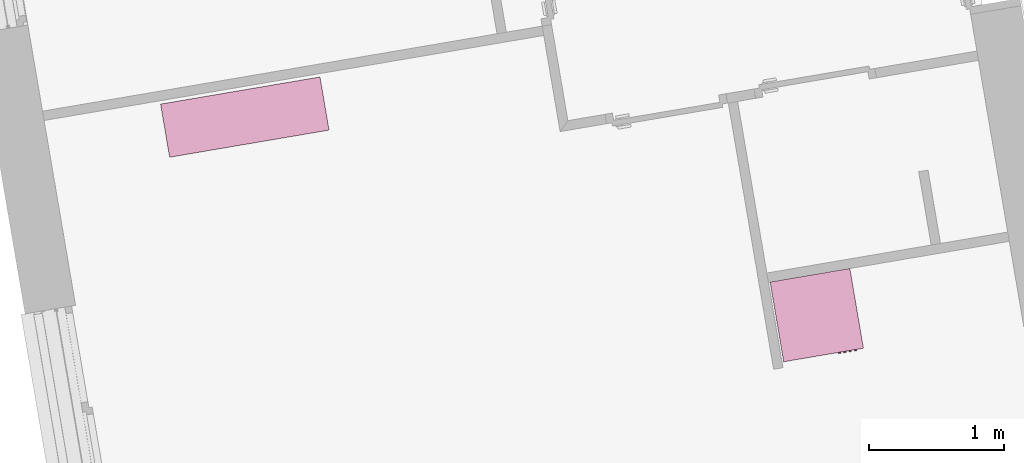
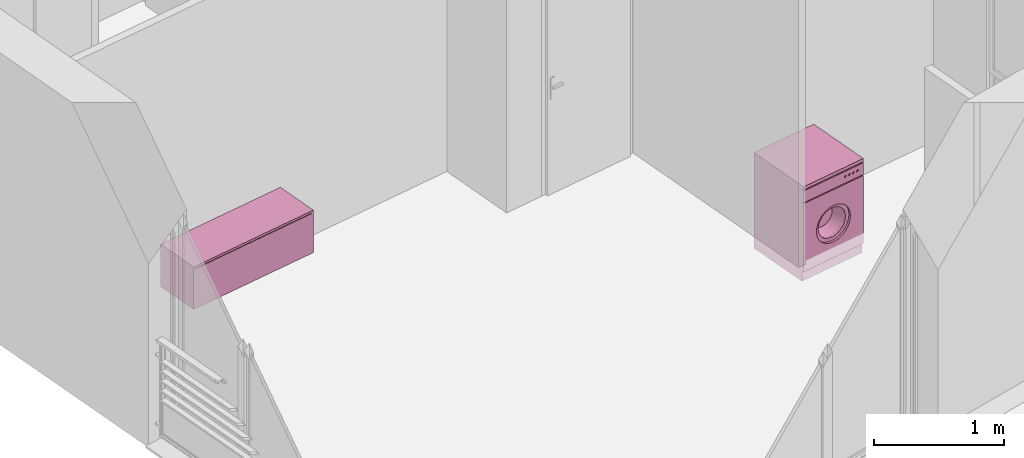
# One storey, part 108 of 121: 2 furnishings.
"""IFC2X3 building model written with IfcOpenShell, lengths in metres."""

from ifc_helpers import new_model, entity, si_unit, converted_unit, derived_unit, money_unit, direction, frame, origin_with_axes, place, context, subcontext, project, spatial, open_shell, faceted_brep, surface_model, source, transform, mapped, type_object, element, save


model = new_model("IFC2X3")

# Units and contexts
model_context = context("Model", 3, precision=1e-05, world=origin_with_axes(), true_north=direction((0.0, 1.0)))
body_context = subcontext(model_context, "Body", "Model", "MODEL_VIEW")
ifc_project = project(units=[si_unit("LENGTHUNIT", "METRE"), si_unit("AREAUNIT", "SQUARE_METRE"), si_unit("VOLUMEUNIT", "CUBIC_METRE"), converted_unit("PLANEANGLEUNIT", "DEGREE", entity("IfcPlaneAngleMeasure", 0.0174532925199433), si_unit("PLANEANGLEUNIT", "RADIAN"), dimensions=[0, 0, 0, 0, 0, 0, 0]), money_unit("CHF"), converted_unit("TIMEUNIT", "Year", entity("IfcTimeMeasure", 31557600.0), si_unit("TIMEUNIT", "SECOND"), dimensions=[0, 0, 1, 0, 0, 0, 0]), si_unit("MASSUNIT", "GRAM", prefix="KILO"), si_unit("THERMODYNAMICTEMPERATUREUNIT", "DEGREE_CELSIUS"), si_unit("LUMINOUSINTENSITYUNIT", "LUMEN"), si_unit("ENERGYUNIT", "JOULE", prefix="MEGA"), derived_unit("THERMALCONDUCTANCEUNIT", [(si_unit("POWERUNIT", "WATT"), 1), (si_unit("LENGTHUNIT", "METRE"), -1), (si_unit("THERMODYNAMICTEMPERATUREUNIT", "KELVIN"), -1)]), derived_unit("SPECIFICHEATCAPACITYUNIT", [(si_unit("ENERGYUNIT", "JOULE"), 1), (si_unit("MASSUNIT", "GRAM", prefix="KILO"), -1), (si_unit("THERMODYNAMICTEMPERATUREUNIT", "KELVIN"), -1)]), derived_unit("MASSDENSITYUNIT", [(si_unit("MASSUNIT", "GRAM", prefix="KILO"), 1), (si_unit("VOLUMEUNIT", "CUBIC_METRE"), -1)])], contexts=[model_context])

# Site, building, storey
site_placement = place(None, origin_with_axes())
site = spatial("IfcSite", under=ifc_project, at=site_placement, Name="Site", CompositionType="ELEMENT")
building_placement = place(site_placement, origin_with_axes())
building = spatial("IfcBuilding", under=site, at=building_placement, Name="Bâtiment", CompositionType="ELEMENT")
storey_placement = place(building_placement, frame((0.0, 0.0, 2.75), z_axis=(0.0, 0.0, 1.0), x_axis=(1.0, 0.0, 0.0)))
storey = spatial("IfcBuildingStorey", under=building, at=storey_placement, Name="Etage 1", CompositionType="ELEMENT", Elevation=2.75)

# Furnishings
furnishing_element_type_1 = type_object("IfcFurnishingElementType", Name="Meuble à plans 27")
shared_shape_1 = source(origin_with_axes(), body_context, "Body", "SurfaceModel", [
    surface_model("IfcShellBasedSurfaceModel", [(-1.18, 0.02, 0.0), (-1.18, 0.4, 0.0), (-0.02, 0.4, 0.0), (-0.02, 0.02, 0.0)], [open_shell([[[0, 1, 2, 3]]])]),
    faceted_brep([(0.0, 0.4, 0.0), (0.0, 0.0, 0.0), (-1.2, 0.0, 0.0), (-1.2, 0.4, 0.0), (0.0, 0.4, 0.4), (0.0, 0.0, 0.4), (-1.2, 0.0, 0.4), (-0.02, 0.0, 0.02), (-1.18, 0.0, 0.02), (-1.18, 0.0, 0.38), (-0.02, 0.0, 0.38), (-1.2, 0.4, 0.4), (-0.02, 0.4, 0.01999999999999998), (-0.02, 0.4, 0.38), (-1.18, 0.4, 0.38), (-1.18, 0.4, 0.01999999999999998)], [[[0, 1, 2, 3]], [[4, 5, 1, 0]], [[1, 5, 6, 2], [7, 8, 9, 10]], [[3, 2, 6, 11]], [[0, 3, 11, 4], [12, 13, 14, 15]], [[11, 6, 5, 4]], [[15, 8, 7, 12]], [[14, 9, 8, 15]], [[13, 10, 9, 14]], [[12, 7, 10, 13]]]),
    faceted_brep([(-1.18, 0.4, 0.01999999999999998), (-1.18, 0.4, 0.38), (-0.02, 0.4, 0.38), (-0.02, 0.4, 0.01999999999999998), (-1.18, 0.38, 0.01999999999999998), (-1.18, 0.3800000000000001, 0.38), (-0.02, 0.3800000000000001, 0.38), (-0.02, 0.38, 0.01999999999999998)], [[[0, 1, 2, 3]], [[0, 4, 5, 1]], [[1, 5, 6, 2]], [[2, 6, 7, 3]], [[3, 7, 4, 0]], [[7, 6, 5, 4]]]),
    faceted_brep([(-1.18, 0.0, 0.02), (-1.18, 0.38, 0.02), (-0.02, 0.38, 0.02), (-0.02, 0.0, 0.02), (-1.18, 0.0, 0.3750000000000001), (-1.18, 0.38, 0.3750000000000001), (-0.02, 0.38, 0.3750000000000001), (-0.02, 0.0, 0.3750000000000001)], [[[0, 1, 2, 3]], [[0, 4, 5, 1]], [[1, 5, 6, 2]], [[2, 6, 7, 3]], [[3, 7, 4, 0]], [[7, 6, 5, 4]]]),
])
furnishing_1_placement = place(storey_placement, frame((9583.496544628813, -1029.957044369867, 57.92018680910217), z_axis=(0.0, 0.0, 1.0), x_axis=(0.9858290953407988, 0.1677527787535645, 0.0)))
element("IfcFurnishingElement", 1, at=furnishing_1_placement, inside=storey, type_object=furnishing_element_type_1, Name="Obj.-376", context=body_context, shape_type="MappedRepresentation", body=[
    mapped(shared_shape_1, transform((0.0, 0.0, 0.0))),
])
furnishing_element_type_2 = type_object("IfcFurnishingElementType", Name="Machine à laver")
shared_shape_2 = source(origin_with_axes(), body_context, "Body", "SurfaceModel", [
    faceted_brep([(0.0, 0.02, 0.1), (0.0, 0.0, 0.1), (-0.6, 0.0, 0.1), (-0.6, 0.02, 0.1), (0.0, 0.02000000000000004, 0.74), (0.0, 0.0, 0.74), (-0.6, 0.0, 0.74), (-0.4714285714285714, 0.0, 0.42), (-0.4655872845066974, 0.0, 0.4643689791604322), (-0.448461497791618, 0.0, 0.5057142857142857), (-0.4212183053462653, 0.0, 0.5412183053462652), (-0.3857142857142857, 0.0, 0.568461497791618), (-0.3443689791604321, 0.0, 0.5855872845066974), (-0.3, 0.0, 0.5914285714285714), (-0.2556310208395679, 0.0, 0.5855872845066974), (-0.2142857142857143, 0.0, 0.5684614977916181), (-0.1787816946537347, 0.0, 0.5412183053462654), (-0.1515385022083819, 0.0, 0.5057142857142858), (-0.1344127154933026, 0.0, 0.4643689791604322), (-0.1285714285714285, 0.0, 0.42), (-0.1344127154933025, 0.0, 0.3756310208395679), (-0.1515385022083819, 0.0, 0.3342857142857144), (-0.1787816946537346, 0.0, 0.2987816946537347), (-0.2142857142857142, 0.0, 0.2715385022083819), (-0.2556310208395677, 0.0, 0.2544127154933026), (-0.2999999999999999, 0.0, 0.2485714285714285), (-0.344368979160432, 0.0, 0.2544127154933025), (-0.3857142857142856, 0.0, 0.2715385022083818), (-0.4212183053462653, 0.0, 0.2987816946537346), (-0.448461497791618, 0.0, 0.3342857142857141), (-0.4655872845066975, 0.0, 0.3756310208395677), (-0.6, 0.02000000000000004, 0.74), (-0.4714285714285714, 0.02000000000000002, 0.42), (-0.4655872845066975, 0.02000000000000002, 0.3756310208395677), (-0.448461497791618, 0.02000000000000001, 0.3342857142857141), (-0.4212183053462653, 0.02000000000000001, 0.2987816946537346), (-0.3857142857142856, 0.02000000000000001, 0.2715385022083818), (-0.344368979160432, 0.02000000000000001, 0.2544127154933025), (-0.2999999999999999, 0.02000000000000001, 0.2485714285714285), (-0.2556310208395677, 0.02000000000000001, 0.2544127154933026), (-0.2142857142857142, 0.02000000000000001, 0.2715385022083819), (-0.1787816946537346, 0.02000000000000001, 0.2987816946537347), (-0.1515385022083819, 0.02000000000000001, 0.3342857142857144), (-0.1344127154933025, 0.02000000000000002, 0.3756310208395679), (-0.1285714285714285, 0.02000000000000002, 0.42), (-0.1344127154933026, 0.02000000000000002, 0.4643689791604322), (-0.1515385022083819, 0.02000000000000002, 0.5057142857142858), (-0.1787816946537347, 0.02000000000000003, 0.5412183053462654), (-0.2142857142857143, 0.02000000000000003, 0.5684614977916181), (-0.2556310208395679, 0.02000000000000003, 0.5855872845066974), (-0.3, 0.02000000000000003, 0.5914285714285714), (-0.3443689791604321, 0.02000000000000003, 0.5855872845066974), (-0.3857142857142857, 0.02000000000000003, 0.568461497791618), (-0.4212183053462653, 0.02000000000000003, 0.5412183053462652), (-0.448461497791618, 0.02000000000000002, 0.5057142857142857), (-0.4655872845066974, 0.02000000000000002, 0.4643689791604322)], [[[0, 1, 2, 3]], [[4, 5, 1, 0]], [[1, 5, 6, 2], [7, 8, 9, 10, 11, 12, 13, 14, 15, 16, 17, 18, 19, 20, 21, 22, 23, 24, 25, 26, 27, 28, 29, 30]], [[3, 2, 6, 31]], [[0, 3, 31, 4], [32, 33, 34, 35, 36, 37, 38, 39, 40, 41, 42, 43, 44, 45, 46, 47, 48, 49, 50, 51, 52, 53, 54, 55]], [[31, 6, 5, 4]], [[55, 8, 7, 32]], [[54, 9, 8, 55]], [[53, 10, 9, 54]], [[52, 11, 10, 53]], [[51, 12, 11, 52]], [[50, 13, 12, 51]], [[49, 14, 13, 50]], [[48, 15, 14, 49]], [[47, 16, 15, 48]], [[46, 17, 16, 47]], [[45, 18, 17, 46]], [[44, 19, 18, 45]], [[43, 20, 19, 44]], [[42, 21, 20, 43]], [[41, 22, 21, 42]], [[40, 23, 22, 41]], [[39, 24, 23, 40]], [[38, 25, 24, 39]], [[37, 26, 25, 38]], [[36, 27, 26, 37]], [[35, 28, 27, 36]], [[34, 29, 28, 35]], [[33, 30, 29, 34]], [[32, 7, 30, 33]]]),
    faceted_brep([(-0.4714285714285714, 0.04000000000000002, 0.42), (-0.4714285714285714, 0.02000000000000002, 0.42), (-0.4655872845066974, 0.02000000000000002, 0.4643689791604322), (-0.4655872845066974, 0.04000000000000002, 0.4643689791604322), (-0.4655872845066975, 0.04000000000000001, 0.3756310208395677), (-0.4655872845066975, 0.02000000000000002, 0.3756310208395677), (-0.448461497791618, 0.02000000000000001, 0.3342857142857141), (-0.4212183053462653, 0.02000000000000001, 0.2987816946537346), (-0.3857142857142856, 0.02000000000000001, 0.2715385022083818), (-0.344368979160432, 0.02000000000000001, 0.2544127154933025), (-0.2999999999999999, 0.02000000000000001, 0.2485714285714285), (-0.2556310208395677, 0.02000000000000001, 0.2544127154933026), (-0.2142857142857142, 0.02000000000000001, 0.2715385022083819), (-0.1787816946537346, 0.02000000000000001, 0.2987816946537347), (-0.1515385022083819, 0.02000000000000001, 0.3342857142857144), (-0.1344127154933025, 0.02000000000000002, 0.3756310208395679), (-0.1285714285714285, 0.02000000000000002, 0.42), (-0.1344127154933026, 0.02000000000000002, 0.4643689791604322), (-0.1515385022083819, 0.02000000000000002, 0.5057142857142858), (-0.1787816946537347, 0.02000000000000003, 0.5412183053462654), (-0.2142857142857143, 0.02000000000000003, 0.5684614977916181), (-0.2556310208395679, 0.02000000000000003, 0.5855872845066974), (-0.3, 0.02000000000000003, 0.5914285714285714), (-0.3443689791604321, 0.02000000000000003, 0.5855872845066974), (-0.3857142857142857, 0.02000000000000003, 0.568461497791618), (-0.4212183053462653, 0.02000000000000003, 0.5412183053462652), (-0.448461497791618, 0.02000000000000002, 0.5057142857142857), (-0.4371428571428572, 0.02000000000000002, 0.42), (-0.432469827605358, 0.02000000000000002, 0.4554951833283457), (-0.4187691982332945, 0.02000000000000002, 0.4885714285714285), (-0.3969746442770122, 0.02000000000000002, 0.5169746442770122), (-0.3685714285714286, 0.02000000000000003, 0.5387691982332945), (-0.3354951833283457, 0.02000000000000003, 0.552469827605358), (-0.3, 0.02000000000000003, 0.5571428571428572), (-0.2645048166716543, 0.02000000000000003, 0.552469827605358), (-0.2314285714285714, 0.02000000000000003, 0.5387691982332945), (-0.2030253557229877, 0.02000000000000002, 0.5169746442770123), (-0.1812308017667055, 0.02000000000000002, 0.4885714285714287), (-0.167530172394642, 0.02000000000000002, 0.4554951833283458), (-0.1628571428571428, 0.02000000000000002, 0.42), (-0.167530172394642, 0.02000000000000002, 0.3845048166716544), (-0.1812308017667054, 0.02000000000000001, 0.3514285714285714), (-0.2030253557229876, 0.02000000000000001, 0.3230253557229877), (-0.2314285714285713, 0.02000000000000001, 0.3012308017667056), (-0.2645048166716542, 0.02000000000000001, 0.287530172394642), (-0.2999999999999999, 0.02000000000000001, 0.2828571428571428), (-0.3354951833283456, 0.02000000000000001, 0.287530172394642), (-0.3685714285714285, 0.02000000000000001, 0.3012308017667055), (-0.3969746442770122, 0.02000000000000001, 0.3230253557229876), (-0.4187691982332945, 0.02000000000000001, 0.3514285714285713), (-0.432469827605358, 0.02000000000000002, 0.3845048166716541), (-0.448461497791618, 0.04000000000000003, 0.5057142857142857), (-0.4212183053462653, 0.04000000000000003, 0.5412183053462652), (-0.3857142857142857, 0.04000000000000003, 0.568461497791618), (-0.3443689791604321, 0.04000000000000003, 0.5855872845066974), (-0.3, 0.04000000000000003, 0.5914285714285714), (-0.2556310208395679, 0.04000000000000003, 0.5855872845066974), (-0.2142857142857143, 0.04000000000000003, 0.5684614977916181), (-0.1787816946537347, 0.04000000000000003, 0.5412183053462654), (-0.1515385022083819, 0.04000000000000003, 0.5057142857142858), (-0.1344127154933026, 0.04000000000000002, 0.4643689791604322), (-0.1285714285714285, 0.04000000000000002, 0.42), (-0.1344127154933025, 0.04000000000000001, 0.3756310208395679), (-0.1515385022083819, 0.04000000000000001, 0.3342857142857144), (-0.1787816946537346, 0.04000000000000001, 0.2987816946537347), (-0.2142857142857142, 0.04000000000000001, 0.2715385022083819), (-0.2556310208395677, 0.04000000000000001, 0.2544127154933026), (-0.2999999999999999, 0.04000000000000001, 0.2485714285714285), (-0.344368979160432, 0.04000000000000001, 0.2544127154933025), (-0.3857142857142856, 0.04000000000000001, 0.2715385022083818), (-0.4212183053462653, 0.04000000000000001, 0.2987816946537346), (-0.448461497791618, 0.04000000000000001, 0.3342857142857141), (-0.4371428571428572, 0.04000000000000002, 0.42), (-0.432469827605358, 0.04000000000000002, 0.3845048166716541), (-0.4187691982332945, 0.04000000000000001, 0.3514285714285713), (-0.3969746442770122, 0.04000000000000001, 0.3230253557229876), (-0.3685714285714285, 0.04000000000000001, 0.3012308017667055), (-0.3354951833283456, 0.04000000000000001, 0.287530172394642), (-0.2999999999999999, 0.04000000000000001, 0.2828571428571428), (-0.2645048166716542, 0.04000000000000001, 0.287530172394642), (-0.2314285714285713, 0.04000000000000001, 0.3012308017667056), (-0.2030253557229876, 0.04000000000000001, 0.3230253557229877), (-0.1812308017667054, 0.04000000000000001, 0.3514285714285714), (-0.167530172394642, 0.04000000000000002, 0.3845048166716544), (-0.1628571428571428, 0.04000000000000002, 0.42), (-0.167530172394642, 0.04000000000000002, 0.4554951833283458), (-0.1812308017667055, 0.04000000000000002, 0.4885714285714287), (-0.2030253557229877, 0.04000000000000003, 0.5169746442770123), (-0.2314285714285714, 0.04000000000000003, 0.5387691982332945), (-0.2645048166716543, 0.04000000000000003, 0.552469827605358), (-0.3, 0.04000000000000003, 0.5571428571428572), (-0.3354951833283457, 0.04000000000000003, 0.552469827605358), (-0.3685714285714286, 0.04000000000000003, 0.5387691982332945), (-0.3969746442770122, 0.04000000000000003, 0.5169746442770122), (-0.4187691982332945, 0.04000000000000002, 0.4885714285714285), (-0.432469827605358, 0.04000000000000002, 0.4554951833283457)], [[[0, 1, 2, 3]], [[4, 5, 1, 0]], [[1, 5, 6, 7, 8, 9, 10, 11, 12, 13, 14, 15, 16, 17, 18, 19, 20, 21, 22, 23, 24, 25, 26, 2], [27, 28, 29, 30, 31, 32, 33, 34, 35, 36, 37, 38, 39, 40, 41, 42, 43, 44, 45, 46, 47, 48, 49, 50]], [[3, 2, 26, 51]], [[0, 3, 51, 52, 53, 54, 55, 56, 57, 58, 59, 60, 61, 62, 63, 64, 65, 66, 67, 68, 69, 70, 71, 4], [72, 73, 74, 75, 76, 77, 78, 79, 80, 81, 82, 83, 84, 85, 86, 87, 88, 89, 90, 91, 92, 93, 94, 95]], [[71, 6, 5, 4]], [[70, 7, 6, 71]], [[69, 8, 7, 70]], [[68, 9, 8, 69]], [[67, 10, 9, 68]], [[66, 11, 10, 67]], [[65, 12, 11, 66]], [[64, 13, 12, 65]], [[63, 14, 13, 64]], [[62, 15, 14, 63]], [[61, 16, 15, 62]], [[60, 17, 16, 61]], [[59, 18, 17, 60]], [[58, 19, 18, 59]], [[57, 20, 19, 58]], [[56, 21, 20, 57]], [[55, 22, 21, 56]], [[54, 23, 22, 55]], [[53, 24, 23, 54]], [[52, 25, 24, 53]], [[51, 26, 25, 52]], [[95, 28, 27, 72]], [[94, 29, 28, 95]], [[93, 30, 29, 94]], [[92, 31, 30, 93]], [[91, 32, 31, 92]], [[90, 33, 32, 91]], [[89, 34, 33, 90]], [[88, 35, 34, 89]], [[87, 36, 35, 88]], [[86, 37, 36, 87]], [[85, 38, 37, 86]], [[84, 39, 38, 85]], [[83, 40, 39, 84]], [[82, 41, 40, 83]], [[81, 42, 41, 82]], [[80, 43, 42, 81]], [[79, 44, 43, 80]], [[78, 45, 44, 79]], [[77, 46, 45, 78]], [[76, 47, 46, 77]], [[75, 48, 47, 76]], [[74, 49, 48, 75]], [[73, 50, 49, 74]], [[72, 27, 50, 73]]]),
    surface_model("IfcShellBasedSurfaceModel", [(-0.2645048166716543, 0.03999999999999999, 0.552469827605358), (-0.2733786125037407, 0.14, 0.5193523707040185), (-0.3, 0.14, 0.5228571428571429), (-0.3, 0.03999999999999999, 0.5571428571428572), (-0.2314285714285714, 0.03999999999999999, 0.5387691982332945), (-0.2485714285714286, 0.14, 0.5090768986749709), (-0.2272690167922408, 0.14, 0.4927309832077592), (-0.2109231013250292, 0.14, 0.4714285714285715), (-0.2006476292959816, 0.14, 0.4466213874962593), (-0.1971428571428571, 0.14, 0.4200000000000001), (-0.2006476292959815, 0.14, 0.3933786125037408), (-0.2109231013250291, 0.14, 0.3685714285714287), (-0.2272690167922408, 0.14, 0.3472690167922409), (-0.2485714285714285, 0.14, 0.3309231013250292), (-0.2733786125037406, 0.14, 0.3206476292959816), (-0.2999999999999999, 0.14, 0.3171428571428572), (-0.3266213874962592, 0.14, 0.3206476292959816), (-0.3514285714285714, 0.14, 0.3309231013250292), (-0.3727309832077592, 0.14, 0.3472690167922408), (-0.3890768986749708, 0.14, 0.3685714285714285), (-0.3993523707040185, 0.14, 0.3933786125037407), (-0.4028571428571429, 0.14, 0.42), (-0.3993523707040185, 0.14, 0.4466213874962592), (-0.3890768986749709, 0.14, 0.4714285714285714), (-0.3727309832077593, 0.14, 0.4927309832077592), (-0.3514285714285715, 0.14, 0.5090768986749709), (-0.3266213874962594, 0.14, 0.5193523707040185), (-0.3354951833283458, 0.03999999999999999, 0.552469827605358), (-0.2030253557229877, 0.03999999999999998, 0.5169746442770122), (-0.1812308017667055, 0.03999999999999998, 0.4885714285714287), (-0.167530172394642, 0.03999999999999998, 0.4554951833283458), (-0.1628571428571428, 0.03999999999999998, 0.4200000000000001), (-0.167530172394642, 0.03999999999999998, 0.3845048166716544), (-0.1812308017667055, 0.03999999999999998, 0.3514285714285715), (-0.2030253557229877, 0.03999999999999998, 0.3230253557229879), (-0.2314285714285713, 0.03999999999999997, 0.3012308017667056), (-0.2645048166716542, 0.03999999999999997, 0.2875301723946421), (-0.2999999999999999, 0.03999999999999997, 0.2828571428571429), (-0.3354951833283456, 0.03999999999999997, 0.2875301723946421), (-0.3685714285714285, 0.03999999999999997, 0.3012308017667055), (-0.3969746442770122, 0.03999999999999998, 0.3230253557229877), (-0.4187691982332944, 0.03999999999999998, 0.3514285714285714), (-0.432469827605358, 0.03999999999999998, 0.3845048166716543), (-0.4371428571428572, 0.03999999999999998, 0.4199999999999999), (-0.432469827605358, 0.03999999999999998, 0.4554951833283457), (-0.4187691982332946, 0.03999999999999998, 0.4885714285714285), (-0.3969746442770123, 0.03999999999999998, 0.5169746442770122), (-0.3685714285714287, 0.03999999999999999, 0.5387691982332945)], [open_shell([[[0, 1, 2, 3]], [[4, 5, 1, 0]], [[2, 1, 5, 6, 7, 8, 9, 10, 11, 12, 13, 14, 15, 16, 17, 18, 19, 20, 21, 22, 23, 24, 25, 26]], [[3, 2, 26, 27]], [[28, 6, 5, 4]], [[29, 7, 6, 28]], [[30, 8, 7, 29]], [[31, 9, 8, 30]], [[32, 10, 9, 31]], [[33, 11, 10, 32]], [[34, 12, 11, 33]], [[35, 13, 12, 34]], [[36, 14, 13, 35]], [[37, 15, 14, 36]], [[38, 16, 15, 37]], [[39, 17, 16, 38]], [[40, 18, 17, 39]], [[41, 19, 18, 40]], [[42, 20, 19, 41]], [[43, 21, 20, 42]], [[44, 22, 21, 43]], [[45, 23, 22, 44]], [[46, 24, 23, 45]], [[47, 25, 24, 46]], [[27, 26, 25, 47]]])]),
    surface_model("IfcShellBasedSurfaceModel", [(0.0, 0.02, 0.1), (0.0, 0.6, 0.09999999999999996), (0.0, 0.6, 0.87), (0.0, 0.02000000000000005, 0.87)], [open_shell([[[0, 1, 2, 3]]])]),
    surface_model("IfcShellBasedSurfaceModel", [(-0.6, 0.01999999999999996, 0.1), (-0.6, 0.5999999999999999, 0.09999999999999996), (-0.6, 0.5999999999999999, 0.87), (-0.6, 0.02000000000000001, 0.87)], [open_shell([[[0, 1, 2, 3]]])]),
    surface_model("IfcShellBasedSurfaceModel", [(0.0, 0.6, 0.1), (-0.6, 0.6, 0.1), (-0.6, 0.6, 0.87), (0.0, 0.6, 0.87)], [open_shell([[[0, 1, 2, 3]]])]),
    faceted_brep([(0.0, 0.02, 0.0), (0.0, 0.02, 0.1), (-0.6, 0.02, 0.1), (-0.6, 0.02, 0.0), (0.0, 0.6, 0.0), (0.0, 0.6, 0.1), (-0.6, 0.6, 0.1), (-0.6, 0.6, 0.0)], [[[0, 1, 2, 3]], [[4, 5, 1, 0]], [[1, 5, 6, 2]], [[3, 2, 6, 7]], [[0, 3, 7, 4]], [[7, 6, 5, 4]]]),
    faceted_brep([(0.0, 0.02, 0.75), (0.0, 0.0, 0.75), (-0.6, 0.0, 0.75), (-0.6, 0.02, 0.75), (0.0, 0.02000000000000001, 0.86), (0.0, 0.0, 0.86), (-0.6, 0.0, 0.86), (-0.6, 0.02000000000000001, 0.86)], [[[0, 1, 2, 3]], [[4, 5, 1, 0]], [[1, 5, 6, 2]], [[3, 2, 6, 7]], [[0, 3, 7, 4]], [[7, 6, 5, 4]]]),
    surface_model("IfcShellBasedSurfaceModel", [(0.0, 0.02, 0.74), (-0.6, 0.02, 0.74), (-0.6, 0.02000000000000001, 0.87), (0.0, 0.02000000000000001, 0.87)], [open_shell([[[0, 1, 2, 3]]])]),
    faceted_brep([(0.0, 0.0, 0.87), (0.0, 0.0, 0.9), (-0.6, 0.0, 0.9), (-0.6, 0.0, 0.87), (0.0, 0.6, 0.87), (0.0, 0.6, 0.9), (-0.6, 0.6, 0.9), (-0.6, 0.6, 0.87)], [[[0, 1, 2, 3]], [[4, 5, 1, 0]], [[1, 5, 6, 2]], [[3, 2, 6, 7]], [[0, 3, 7, 4]], [[7, 6, 5, 4]]]),
    faceted_brep([(-0.06866025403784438, 0.0, 0.8049999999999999), (-0.06999999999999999, 0.0, 0.8099999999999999), (-0.06866025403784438, 0.0, 0.815), (-0.065, 0.0, 0.8186602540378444), (-0.06, 0.0, 0.82), (-0.055, 0.0, 0.8186602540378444), (-0.05133974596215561, 0.0, 0.815), (-0.05, 0.0, 0.8099999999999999), (-0.05133974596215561, 0.0, 0.8049999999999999), (-0.05499999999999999, 0.0, 0.8013397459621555), (-0.05999999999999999, 0.0, 0.7999999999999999), (-0.06499999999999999, 0.0, 0.8013397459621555), (-0.06866025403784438, -0.01, 0.8049999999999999), (-0.06999999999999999, -0.01, 0.8099999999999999), (-0.06866025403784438, -0.01, 0.815), (-0.065, -0.01, 0.8186602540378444), (-0.06, -0.01, 0.82), (-0.055, -0.01, 0.8186602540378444), (-0.05133974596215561, -0.01, 0.815), (-0.05, -0.01, 0.8099999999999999), (-0.05133974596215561, -0.01, 0.8049999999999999), (-0.05499999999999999, -0.01, 0.8013397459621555), (-0.05999999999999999, -0.01, 0.7999999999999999), (-0.06499999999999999, -0.01, 0.8013397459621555)], [[[0, 1, 2, 3, 4, 5, 6, 7, 8, 9, 10, 11]], [[0, 12, 13, 1]], [[1, 13, 14, 2]], [[2, 14, 15, 3]], [[3, 15, 16, 4]], [[4, 16, 17, 5]], [[5, 17, 18, 6]], [[6, 18, 19, 7]], [[7, 19, 20, 8]], [[8, 20, 21, 9]], [[9, 21, 22, 10]], [[10, 22, 23, 11]], [[11, 23, 12, 0]], [[12, 23, 22, 21, 20, 19, 18, 17, 16, 15, 14, 13]]]),
    faceted_brep([(-0.1086602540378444, 0.0, 0.8049999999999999), (-0.11, 0.0, 0.8099999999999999), (-0.1086602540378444, 0.0, 0.815), (-0.105, 0.0, 0.8186602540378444), (-0.1, 0.0, 0.82), (-0.095, 0.0, 0.8186602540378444), (-0.09133974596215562, 0.0, 0.815), (-0.09000000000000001, 0.0, 0.8099999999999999), (-0.09133974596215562, 0.0, 0.8049999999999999), (-0.095, 0.0, 0.8013397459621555), (-0.09999999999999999, 0.0, 0.7999999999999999), (-0.105, 0.0, 0.8013397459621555), (-0.1086602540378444, -0.01, 0.8049999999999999), (-0.11, -0.01, 0.8099999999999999), (-0.1086602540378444, -0.01, 0.815), (-0.105, -0.01, 0.8186602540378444), (-0.1, -0.01, 0.82), (-0.095, -0.01, 0.8186602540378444), (-0.09133974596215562, -0.01, 0.815), (-0.09000000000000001, -0.01, 0.8099999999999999), (-0.09133974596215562, -0.01, 0.8049999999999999), (-0.095, -0.01, 0.8013397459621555), (-0.09999999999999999, -0.01, 0.7999999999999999), (-0.105, -0.01, 0.8013397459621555)], [[[0, 1, 2, 3, 4, 5, 6, 7, 8, 9, 10, 11]], [[0, 12, 13, 1]], [[1, 13, 14, 2]], [[2, 14, 15, 3]], [[3, 15, 16, 4]], [[4, 16, 17, 5]], [[5, 17, 18, 6]], [[6, 18, 19, 7]], [[7, 19, 20, 8]], [[8, 20, 21, 9]], [[9, 21, 22, 10]], [[10, 22, 23, 11]], [[11, 23, 12, 0]], [[12, 23, 22, 21, 20, 19, 18, 17, 16, 15, 14, 13]]]),
    faceted_brep([(-0.1486602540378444, 0.0, 0.8049999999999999), (-0.15, 0.0, 0.8099999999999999), (-0.1486602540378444, 0.0, 0.815), (-0.145, 0.0, 0.8186602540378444), (-0.14, 0.0, 0.82), (-0.135, 0.0, 0.8186602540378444), (-0.1313397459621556, 0.0, 0.815), (-0.13, 0.0, 0.8099999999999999), (-0.1313397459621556, 0.0, 0.8049999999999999), (-0.135, 0.0, 0.8013397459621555), (-0.14, 0.0, 0.7999999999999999), (-0.145, 0.0, 0.8013397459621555), (-0.1486602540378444, -0.01, 0.8049999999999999), (-0.15, -0.01, 0.8099999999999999), (-0.1486602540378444, -0.01, 0.815), (-0.145, -0.01, 0.8186602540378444), (-0.14, -0.01, 0.82), (-0.135, -0.01, 0.8186602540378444), (-0.1313397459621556, -0.01, 0.815), (-0.13, -0.01, 0.8099999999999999), (-0.1313397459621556, -0.01, 0.8049999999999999), (-0.135, -0.01, 0.8013397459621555), (-0.14, -0.01, 0.7999999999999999), (-0.145, -0.01, 0.8013397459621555)], [[[0, 1, 2, 3, 4, 5, 6, 7, 8, 9, 10, 11]], [[0, 12, 13, 1]], [[1, 13, 14, 2]], [[2, 14, 15, 3]], [[3, 15, 16, 4]], [[4, 16, 17, 5]], [[5, 17, 18, 6]], [[6, 18, 19, 7]], [[7, 19, 20, 8]], [[8, 20, 21, 9]], [[9, 21, 22, 10]], [[10, 22, 23, 11]], [[11, 23, 12, 0]], [[12, 23, 22, 21, 20, 19, 18, 17, 16, 15, 14, 13]]]),
    faceted_brep([(-0.1886602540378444, 0.0, 0.8049999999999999), (-0.19, 0.0, 0.8099999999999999), (-0.1886602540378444, 0.0, 0.815), (-0.185, 0.0, 0.8186602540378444), (-0.18, 0.0, 0.82), (-0.175, 0.0, 0.8186602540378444), (-0.1713397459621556, 0.0, 0.815), (-0.17, 0.0, 0.8099999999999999), (-0.1713397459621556, 0.0, 0.8049999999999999), (-0.175, 0.0, 0.8013397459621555), (-0.18, 0.0, 0.7999999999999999), (-0.185, 0.0, 0.8013397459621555), (-0.1886602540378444, -0.01, 0.8049999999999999), (-0.19, -0.01, 0.8099999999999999), (-0.1886602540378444, -0.01, 0.815), (-0.185, -0.01, 0.8186602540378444), (-0.18, -0.01, 0.82), (-0.175, -0.01, 0.8186602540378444), (-0.1713397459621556, -0.01, 0.815), (-0.17, -0.01, 0.8099999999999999), (-0.1713397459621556, -0.01, 0.8049999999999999), (-0.175, -0.01, 0.8013397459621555), (-0.18, -0.01, 0.7999999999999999), (-0.185, -0.01, 0.8013397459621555)], [[[0, 1, 2, 3, 4, 5, 6, 7, 8, 9, 10, 11]], [[0, 12, 13, 1]], [[1, 13, 14, 2]], [[2, 14, 15, 3]], [[3, 15, 16, 4]], [[4, 16, 17, 5]], [[5, 17, 18, 6]], [[6, 18, 19, 7]], [[7, 19, 20, 8]], [[8, 20, 21, 9]], [[9, 21, 22, 10]], [[10, 22, 23, 11]], [[11, 23, 12, 0]], [[12, 23, 22, 21, 20, 19, 18, 17, 16, 15, 14, 13]]]),
])
furnishing_2_placement = place(storey_placement, frame((9587.4616114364, -1031.575374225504, 57.49999999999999), z_axis=(0.0, 0.0, 1.0), x_axis=(0.9858290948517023, 0.167752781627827, 0.0)))
element("IfcFurnishingElement", 2, at=furnishing_2_placement, inside=storey, type_object=furnishing_element_type_2, Name="Obj.-019", context=body_context, shape_type="MappedRepresentation", body=[
    mapped(shared_shape_2, transform((0.0, 0.0, 0.0))),
])

save(model, "model.ifc")
